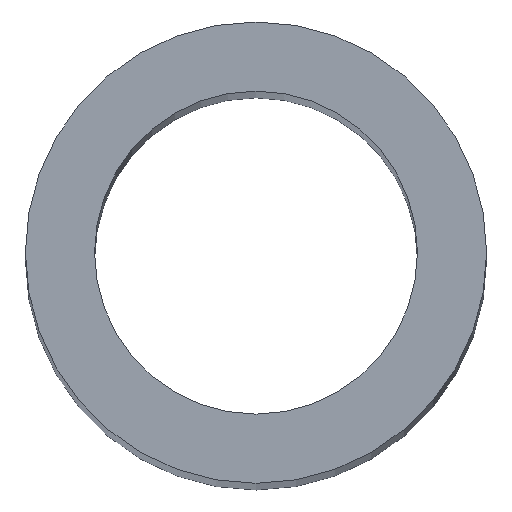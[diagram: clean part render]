
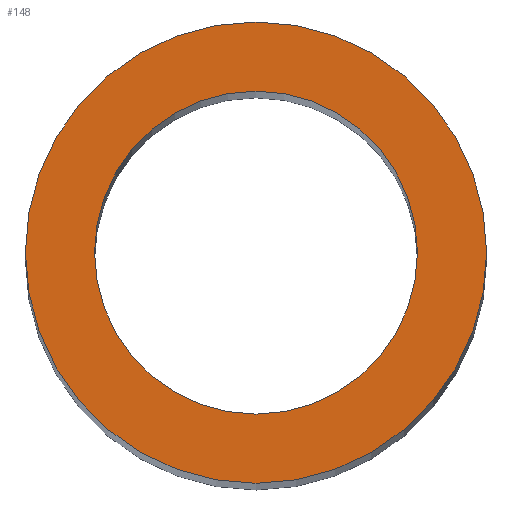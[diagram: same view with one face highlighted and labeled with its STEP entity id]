
A CAD part, top view. The second image highlights one B-rep face of the part: STEP entity #148.
In plain terms, the highlighted planar face has unit normal (0, 0, 1).
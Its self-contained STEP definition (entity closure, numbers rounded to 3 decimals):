
#61=AXIS2_PLACEMENT_3D('Circle Axis2P3D',#59,#60,$) ;
#78=AXIS2_PLACEMENT_3D('Circle Axis2P3D',#76,#77,$) ;
#124=AXIS2_PLACEMENT_3D('Plane Axis2P3D',#121,#122,#123) ;
#132=AXIS2_PLACEMENT_3D('Circle Axis2P3D',#130,#131,$) ;
#141=AXIS2_PLACEMENT_3D('Circle Axis2P3D',#139,#140,$) ;
#42=CARTESIAN_POINT('Vertex',(6.,0.,100.)) ;
#56=CARTESIAN_POINT('Vertex',(-6.,0.,100.)) ;
#59=CARTESIAN_POINT('Axis2P3D Location',(0.,0.,100.)) ;
#76=CARTESIAN_POINT('Axis2P3D Location',(0.,0.,100.)) ;
#121=CARTESIAN_POINT('Axis2P3D Location',(0.,0.,100.)) ;
#130=CARTESIAN_POINT('Axis2P3D Location',(0.,0.,100.)) ;
#134=CARTESIAN_POINT('Vertex',(4.2,0.,100.)) ;
#136=CARTESIAN_POINT('Vertex',(-4.2,0.,100.)) ;
#139=CARTESIAN_POINT('Axis2P3D Location',(0.,0.,100.)) ;
#60=DIRECTION('Axis2P3D Direction',(0.,0.,-1.)) ;
#77=DIRECTION('Axis2P3D Direction',(0.,0.,-1.)) ;
#122=DIRECTION('Axis2P3D Direction',(0.,0.,1.)) ;
#123=DIRECTION('Axis2P3D XDirection',(1.,0.,0.)) ;
#131=DIRECTION('Axis2P3D Direction',(0.,0.,1.)) ;
#140=DIRECTION('Axis2P3D Direction',(0.,0.,1.)) ;
#127=ORIENTED_EDGE('',*,*,#80,.F.) ;
#128=ORIENTED_EDGE('',*,*,#63,.F.) ;
#145=ORIENTED_EDGE('',*,*,#138,.F.) ;
#146=ORIENTED_EDGE('',*,*,#143,.F.) ;
#147=FACE_BOUND('',#144,.T.) ;
#148=ADVANCED_FACE('1',(#129,#147),#125,.T.) ;
#62=CIRCLE('generated circle',#61,6.) ;
#79=CIRCLE('generated circle',#78,6.) ;
#133=CIRCLE('generated circle',#132,4.2) ;
#142=CIRCLE('generated circle',#141,4.2) ;
#63=EDGE_CURVE('',#57,#43,#62,.T.) ;
#80=EDGE_CURVE('',#43,#57,#79,.T.) ;
#138=EDGE_CURVE('',#135,#137,#133,.T.) ;
#143=EDGE_CURVE('',#137,#135,#142,.T.) ;
#126=EDGE_LOOP('',(#127,#128)) ;
#144=EDGE_LOOP('',(#145,#146)) ;
#129=FACE_OUTER_BOUND('',#126,.T.) ;
#125=PLANE('',#124) ;
#43=VERTEX_POINT('',#42) ;
#57=VERTEX_POINT('',#56) ;
#135=VERTEX_POINT('',#134) ;
#137=VERTEX_POINT('',#136) ;
